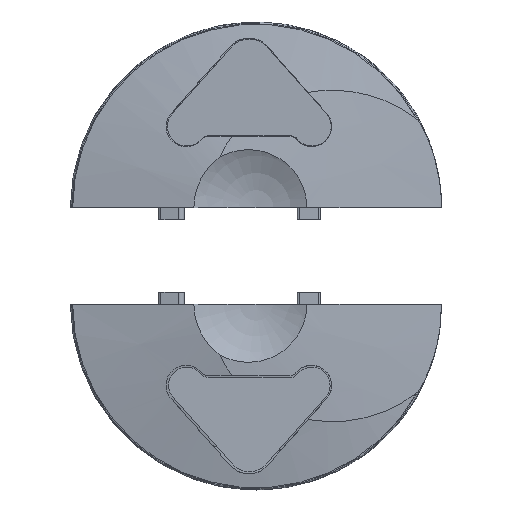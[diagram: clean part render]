
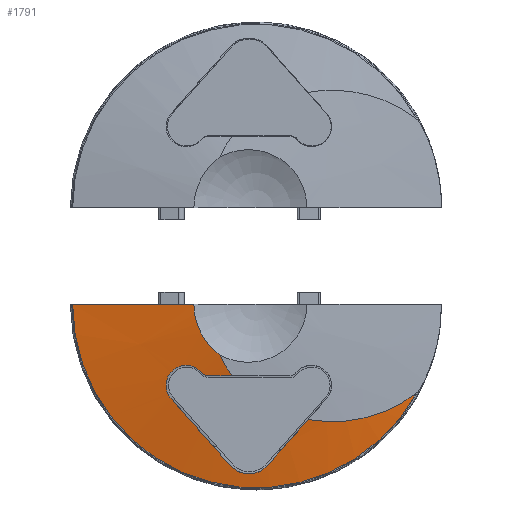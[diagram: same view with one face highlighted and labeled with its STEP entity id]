
A CAD part, top view. The second image highlights one B-rep face of the part: STEP entity #1791.
In plain terms, the highlighted conical face has half-angle 79.845 degrees and reference radius 25.689 mm.
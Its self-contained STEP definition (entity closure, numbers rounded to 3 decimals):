
#90=LINE('',#2698,#228);
#228=VECTOR('',#2111,1000.);
#366=CONICAL_SURFACE('',#1907,25.689,1.394);
#373=CIRCLE('',#1908,25.689);
#374=CIRCLE('',#1909,75.809);
#464=ORIENTED_EDGE('',*,*,#1016,.F.);
#465=ORIENTED_EDGE('',*,*,#1017,.F.);
#466=ORIENTED_EDGE('',*,*,#1018,.F.);
#467=ORIENTED_EDGE('',*,*,#1019,.F.);
#468=ORIENTED_EDGE('',*,*,#1020,.T.);
#469=ORIENTED_EDGE('',*,*,#1021,.F.);
#470=ORIENTED_EDGE('',*,*,#1022,.F.);
#471=ORIENTED_EDGE('',*,*,#1023,.T.);
#472=ORIENTED_EDGE('',*,*,#1024,.T.);
#473=ORIENTED_EDGE('',*,*,#1025,.F.);
#474=ORIENTED_EDGE('',*,*,#1026,.F.);
#1016=EDGE_CURVE('',#1292,#1293,#1477,.T.);
#1017=EDGE_CURVE('',#1294,#1292,#1478,.T.);
#1018=EDGE_CURVE('',#1295,#1294,#1479,.T.);
#1019=EDGE_CURVE('',#1296,#1295,#1480,.T.);
#1020=EDGE_CURVE('',#1296,#1297,#1481,.T.);
#1021=EDGE_CURVE('',#1298,#1297,#1482,.T.);
#1022=EDGE_CURVE('',#1299,#1298,#1483,.T.);
#1023=EDGE_CURVE('',#1299,#1300,#373,.T.);
#1024=EDGE_CURVE('',#1300,#1301,#90,.T.);
#1025=EDGE_CURVE('',#1302,#1301,#374,.T.);
#1026=EDGE_CURVE('',#1293,#1302,#1484,.T.);
#1292=VERTEX_POINT('',#2652);
#1293=VERTEX_POINT('',#2653);
#1294=VERTEX_POINT('',#2663);
#1295=VERTEX_POINT('',#2668);
#1296=VERTEX_POINT('',#2680);
#1297=VERTEX_POINT('',#2685);
#1298=VERTEX_POINT('',#2690);
#1299=VERTEX_POINT('',#2695);
#1300=VERTEX_POINT('',#2697);
#1301=VERTEX_POINT('',#2699);
#1302=VERTEX_POINT('',#2701);
#1477=B_SPLINE_CURVE_WITH_KNOTS('',3,(#2648,#2649,#2650,#2651),
 .UNSPECIFIED.,.F.,.F.,(4,4),(0.,0.025),
 .UNSPECIFIED.);
#1478=B_SPLINE_CURVE_WITH_KNOTS('',3,(#2654,#2655,#2656,#2657,#2658,#2659,
#2660,#2661,#2662),.UNSPECIFIED.,.F.,.F.,(4,1,1,1,1,1,4),(0.,
0.002,0.004,0.009,0.013,
0.015,0.017),.UNSPECIFIED.);
#1479=B_SPLINE_CURVE_WITH_KNOTS('',3,(#2664,#2665,#2666,#2667),
 .UNSPECIFIED.,.F.,.F.,(4,4),(0.006,0.043),
 .UNSPECIFIED.);
#1480=B_SPLINE_CURVE_WITH_KNOTS('',3,(#2669,#2670,#2671,#2672,#2673,#2674,
#2675,#2676,#2677,#2678,#2679),.UNSPECIFIED.,.F.,.F.,(4,1,1,1,1,1,1,1,4),
(0.,0.003,0.007,0.01,
0.013,0.016,0.02,0.023,
0.026),.UNSPECIFIED.);
#1481=B_SPLINE_CURVE_WITH_KNOTS('',3,(#2681,#2682,#2683,#2684),
 .UNSPECIFIED.,.F.,.F.,(4,4),(0.,0.003),
 .UNSPECIFIED.);
#1482=B_SPLINE_CURVE_WITH_KNOTS('',3,(#2686,#2687,#2688,#2689),
 .UNSPECIFIED.,.F.,.F.,(4,4),(0.024,0.034),
 .UNSPECIFIED.);
#1483=B_SPLINE_CURVE_WITH_KNOTS('',3,(#2691,#2692,#2693,#2694),
 .UNSPECIFIED.,.F.,.F.,(4,4),(0.,0.01),
 .UNSPECIFIED.);
#1484=B_SPLINE_CURVE_WITH_KNOTS('',3,(#2702,#2703,#2704,#2705,#2706,#2707,
#2708,#2709,#2710),.UNSPECIFIED.,.F.,.F.,(4,1,1,1,1,1,4),(0.047,
0.053,0.059,0.071,0.077,
0.083,0.095),.UNSPECIFIED.);
#1526=EDGE_LOOP('',(#464,#465,#466,#467,#468,#469,#470,#471,#472,#473,#474));
#1640=FACE_BOUND('',#1526,.T.);
#1791=ADVANCED_FACE('',(#1640),#366,.T.);
#1907=AXIS2_PLACEMENT_3D('',#2647,#2107,#2108);
#1908=AXIS2_PLACEMENT_3D('',#2696,#2109,#2110);
#1909=AXIS2_PLACEMENT_3D('',#2700,#2112,#2113);
#2107=DIRECTION('',(0.,-1.,0.));
#2108=DIRECTION('',(0.,0.,-1.));
#2109=DIRECTION('',(0.,-1.,0.));
#2110=DIRECTION('',(0.,0.,-1.));
#2111=DIRECTION('',(0.984,-0.176,0.));
#2112=DIRECTION('',(0.,-1.,0.));
#2113=DIRECTION('',(0.,0.,-1.));
#2647=CARTESIAN_POINT('',(0.,10.344,0.));
#2648=CARTESIAN_POINT('',(-4.779,2.985,-66.601));
#2649=CARTESIAN_POINT('',(-10.353,4.04,-60.294));
#2650=CARTESIAN_POINT('',(-15.933,4.959,-53.979));
#2651=CARTESIAN_POINT('',(-21.528,5.58,-47.647));
#2652=CARTESIAN_POINT('',(-4.779,2.985,-66.601));
#2653=CARTESIAN_POINT('',(-21.528,5.58,-47.647));
#2654=CARTESIAN_POINT('',(10.68,2.863,-66.603));
#2655=CARTESIAN_POINT('',(10.195,2.78,-67.152));
#2656=CARTESIAN_POINT('',(9.128,2.635,-68.128));
#2657=CARTESIAN_POINT('',(6.587,2.424,-69.62));
#2658=CARTESIAN_POINT('',(2.946,2.333,-70.399));
#2659=CARTESIAN_POINT('',(-0.696,2.479,-69.615));
#2660=CARTESIAN_POINT('',(-3.231,2.731,-68.123));
#2661=CARTESIAN_POINT('',(-4.294,2.893,-67.149));
#2662=CARTESIAN_POINT('',(-4.779,2.985,-66.601));
#2663=CARTESIAN_POINT('',(10.68,2.863,-66.603));
#2664=CARTESIAN_POINT('',(35.076,5.549,-39.008));
#2665=CARTESIAN_POINT('',(26.917,5.297,-48.237));
#2666=CARTESIAN_POINT('',(18.791,4.255,-57.428));
#2667=CARTESIAN_POINT('',(10.68,2.863,-66.603));
#2668=CARTESIAN_POINT('',(35.076,5.549,-39.008));
#2669=CARTESIAN_POINT('',(22.522,8.487,-28.152));
#2670=CARTESIAN_POINT('',(23.24,8.526,-27.303));
#2671=CARTESIAN_POINT('',(24.999,8.504,-25.916));
#2672=CARTESIAN_POINT('',(28.239,8.192,-25.015));
#2673=CARTESIAN_POINT('',(31.543,7.688,-25.431));
#2674=CARTESIAN_POINT('',(34.426,7.101,-27.07));
#2675=CARTESIAN_POINT('',(36.466,6.524,-29.686));
#2676=CARTESIAN_POINT('',(37.355,6.032,-32.903));
#2677=CARTESIAN_POINT('',(36.931,5.683,-36.233));
#2678=CARTESIAN_POINT('',(35.813,5.572,-38.174));
#2679=CARTESIAN_POINT('',(35.076,5.549,-39.008));
#2680=CARTESIAN_POINT('',(22.522,8.487,-28.152));
#2681=CARTESIAN_POINT('',(22.522,8.487,-28.152));
#2682=CARTESIAN_POINT('',(21.924,8.439,-28.973));
#2683=CARTESIAN_POINT('',(20.941,8.471,-29.472));
#2684=CARTESIAN_POINT('',(19.929,8.573,-29.472));
#2685=CARTESIAN_POINT('',(19.929,8.573,-29.472));
#2686=CARTESIAN_POINT('',(9.846,9.38,-29.469));
#2687=CARTESIAN_POINT('',(13.208,9.189,-29.47));
#2688=CARTESIAN_POINT('',(16.569,8.91,-29.471));
#2689=CARTESIAN_POINT('',(19.929,8.573,-29.472));
#2690=CARTESIAN_POINT('',(9.846,9.38,-29.469));
#2691=CARTESIAN_POINT('',(14.781,10.344,-21.01));
#2692=CARTESIAN_POINT('',(13.512,10.028,-24.055));
#2693=CARTESIAN_POINT('',(11.845,9.709,-26.862));
#2694=CARTESIAN_POINT('',(9.846,9.38,-29.469));
#2695=CARTESIAN_POINT('',(14.781,10.344,-21.01));
#2696=CARTESIAN_POINT('',(0.,10.344,0.));
#2697=CARTESIAN_POINT('',(25.689,10.344,0.));
#2698=CARTESIAN_POINT('',(25.689,10.344,0.));
#2699=CARTESIAN_POINT('',(75.809,1.366,0.));
#2700=CARTESIAN_POINT('',(0.,1.366,0.));
#2701=CARTESIAN_POINT('',(-66.367,1.366,-36.639));
#2702=CARTESIAN_POINT('',(-21.528,5.58,-47.647));
#2703=CARTESIAN_POINT('',(-23.472,5.381,-47.989));
#2704=CARTESIAN_POINT('',(-27.388,4.986,-48.473));
#2705=CARTESIAN_POINT('',(-35.396,4.202,-48.623));
#2706=CARTESIAN_POINT('',(-43.193,3.465,-47.57));
#2707=CARTESIAN_POINT('',(-50.856,2.758,-45.297));
#2708=CARTESIAN_POINT('',(-58.185,2.093,-42.242));
#2709=CARTESIAN_POINT('',(-63.223,1.644,-39.125));
#2710=CARTESIAN_POINT('',(-66.367,1.366,-36.639));
